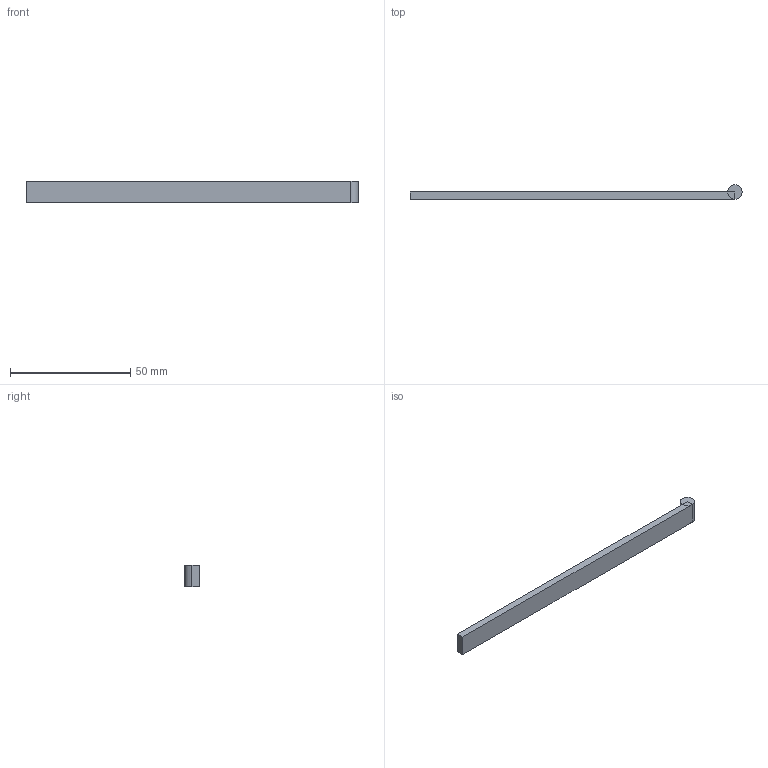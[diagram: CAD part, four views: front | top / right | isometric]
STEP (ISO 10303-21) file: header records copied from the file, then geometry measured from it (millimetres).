
FILE_DESCRIPTION(('Open CASCADE Model'),'2;1');
FILE_NAME('Open CASCADE Shape Model','2026-10-04T02:31:39',('Author'),( 'Open CASCADE'),'Open CASCADE STEP processor 8.0','Open CASCADE 8.0' ,'Unknown');
FILE_SCHEMA(('AUTOMOTIVE_DESIGN { 1 0 10303 214 1 1 1 1 }'));
Length unit declared in the file: millimetre
Products named in the file (1): Open CASCADE STEP translator 8.0 178
Bounding box: 138 x 6 x 9 mm (x, y, z)
Volume: 3835.9 mm3; surface area: 3409.6 mm2
Topology: 1 solids, 1 shells, 11 faces, 21 edges, 12 vertices
Faces by surface type: plane 9, cylinder 2
Entity records: 554 total; most frequent: DIRECTION 91, CARTESIAN_POINT 89, LINE 47, VECTOR 47, ORIENTED_EDGE 42, PCURVE 42, DEFINITIONAL_REPRESENTATION 42, EDGE_CURVE 21
